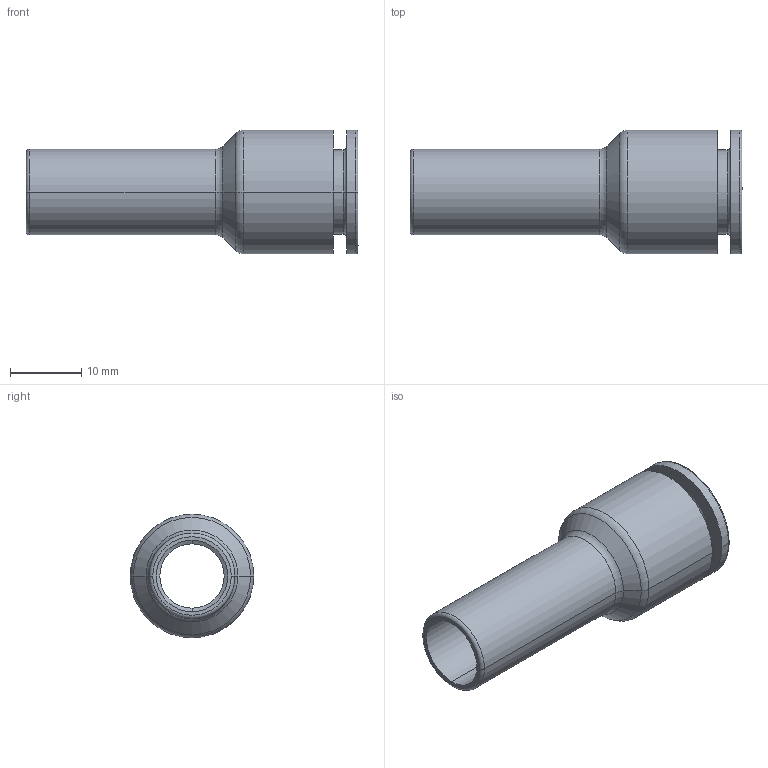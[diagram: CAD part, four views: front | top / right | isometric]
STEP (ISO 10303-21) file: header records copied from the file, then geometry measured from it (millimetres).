
FILE_DESCRIPTION (( 'STEP AP214' ), '1' );
FILE_NAME ('5470000010A.STEP', '2025-07-02T14:19:04', ( '' ), ( '' ), 'SwSTEP 2.0', 'SolidWorks 2020', '' );
FILE_SCHEMA (( 'AUTOMOTIVE_DESIGN' ));
Length unit declared in the file: millimetre
Products named in the file (1): 5470000010A
Bounding box: 46.5 x 17.3 x 17.3 mm (x, y, z)
Volume: 3516.7 mm3; surface area: 3965 mm2
Topology: 1 solids, 1 shells, 129 faces, 320 edges, 206 vertices
Faces by surface type: plane 71, bspline 26, cylinder 14, torus 10, cone 8
Entity records: 6631 total; most frequent: CARTESIAN_POINT 2242, ORIENTED_EDGE 640, DIRECTION 528, EDGE_CURVE 320, LINE 216, VECTOR 216, VERTEX_POINT 206, AXIS2_PLACEMENT_3D 156
